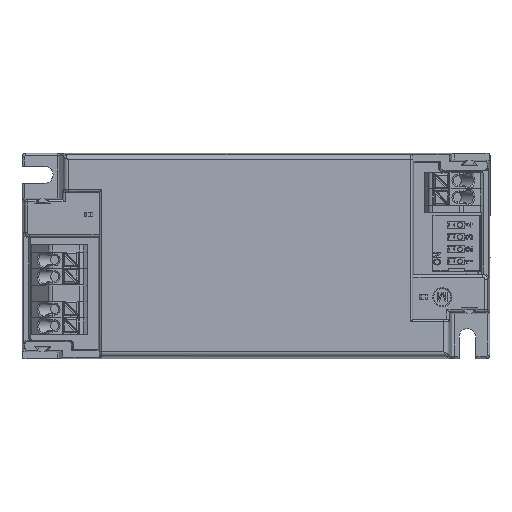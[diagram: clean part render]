
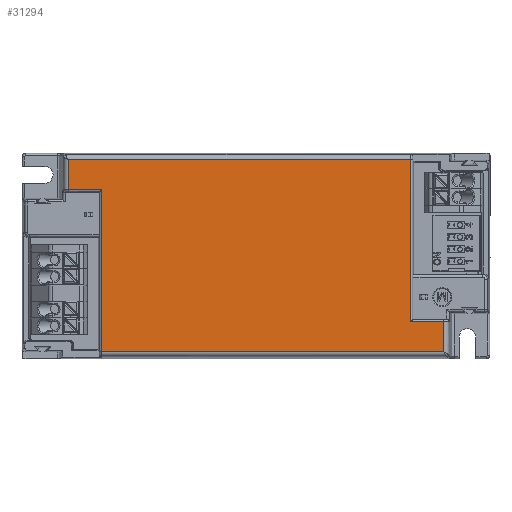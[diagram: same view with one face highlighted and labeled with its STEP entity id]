
A CAD part, top view. The second image highlights one B-rep face of the part: STEP entity #31294.
In plain terms, the highlighted planar face has unit normal (0, 0, 1).
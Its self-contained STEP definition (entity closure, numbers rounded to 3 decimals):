
#25972=DIRECTION('',(1.,0.,0.));
#25973=VECTOR('',#25972,71.635);
#25974=CARTESIAN_POINT('',(531.451,-124.133,
-43.));
#25975=LINE('',#25974,#25973);
#25985=DIRECTION('',(0.,-1.,0.));
#25986=VECTOR('',#25985,33.974);
#25987=CARTESIAN_POINT('',(531.451,-90.159,
-43.));
#25988=LINE('',#25987,#25986);
#26002=DIRECTION('',(1.,0.,0.));
#26003=VECTOR('',#26002,7.037);
#26004=CARTESIAN_POINT('',(524.414,-90.159,
-43.));
#26005=LINE('',#26004,#26003);
#26479=CARTESIAN_POINT('',(596.049,-83.867,
-43.));
#26493=DIRECTION('',(-1.,0.,0.));
#26494=VECTOR('',#26493,71.635);
#26495=CARTESIAN_POINT('',(596.049,-83.867,
-43.));
#26496=LINE('',#26495,#26494);
#26540=DIRECTION('',(0.,-1.,0.));
#26541=VECTOR('',#26540,6.292);
#26542=CARTESIAN_POINT('',(524.414,-83.867,
-43.));
#26543=LINE('',#26542,#26541);
#26552=DIRECTION('',(0.,1.,0.));
#26553=VECTOR('',#26552,33.974);
#26554=CARTESIAN_POINT('',(596.049,-117.841,
-43.));
#26555=LINE('',#26554,#26553);
#26569=DIRECTION('',(-1.,0.,0.));
#26570=VECTOR('',#26569,7.037);
#26571=CARTESIAN_POINT('',(603.086,-117.841,
-43.));
#26572=LINE('',#26571,#26570);
#27230=DIRECTION('',(0.,1.,0.));
#27231=VECTOR('',#27230,6.292);
#27232=CARTESIAN_POINT('',(603.086,-124.133,
-43.));
#27233=LINE('',#27232,#27231);
#29200=VERTEX_POINT('',#26479);
#29201=CARTESIAN_POINT('',(524.414,-83.867,
-43.));
#29202=VERTEX_POINT('',#29201);
#29203=CARTESIAN_POINT('',(531.451,-124.133,
-43.));
#29204=CARTESIAN_POINT('',(603.086,-124.133,
-43.));
#29205=VERTEX_POINT('',#29203);
#29206=VERTEX_POINT('',#29204);
#29207=CARTESIAN_POINT('',(531.451,-90.159,
-43.));
#29208=VERTEX_POINT('',#29207);
#29209=CARTESIAN_POINT('',(524.414,-90.159,
-43.));
#29210=VERTEX_POINT('',#29209);
#29211=CARTESIAN_POINT('',(596.049,-117.841,
-43.));
#29212=VERTEX_POINT('',#29211);
#29213=CARTESIAN_POINT('',(603.086,-117.841,
-43.));
#29214=VERTEX_POINT('',#29213);
#31272=CARTESIAN_POINT('',(0.,0.,-43.));
#31273=DIRECTION('',(0.,0.,1.));
#31274=DIRECTION('',(1.,0.,0.));
#31275=AXIS2_PLACEMENT_3D('',#31272,#31273,#31274);
#31276=PLANE('',#31275);
#31277=ORIENTED_EDGE('',*,*,#31265,.F.);
#31279=ORIENTED_EDGE('',*,*,#31278,.F.);
#31281=ORIENTED_EDGE('',*,*,#31280,.F.);
#31283=ORIENTED_EDGE('',*,*,#31282,.F.);
#31285=ORIENTED_EDGE('',*,*,#31284,.F.);
#31287=ORIENTED_EDGE('',*,*,#31286,.F.);
#31289=ORIENTED_EDGE('',*,*,#31288,.F.);
#31291=ORIENTED_EDGE('',*,*,#31290,.F.);
#31292=EDGE_LOOP('',(#31277,#31279,#31281,#31283,#31285,#31287,#31289,#31291));
#31293=FACE_OUTER_BOUND('',#31292,.F.);
#31265=EDGE_CURVE('',#29205,#29206,#25975,.T.);
#31278=EDGE_CURVE('',#29208,#29205,#25988,.T.);
#31280=EDGE_CURVE('',#29210,#29208,#26005,.T.);
#31282=EDGE_CURVE('',#29202,#29210,#26543,.T.);
#31284=EDGE_CURVE('',#29200,#29202,#26496,.T.);
#31286=EDGE_CURVE('',#29212,#29200,#26555,.T.);
#31288=EDGE_CURVE('',#29214,#29212,#26572,.T.);
#31290=EDGE_CURVE('',#29206,#29214,#27233,.T.);
#31294=ADVANCED_FACE('',(#31293),#31276,.T.);
